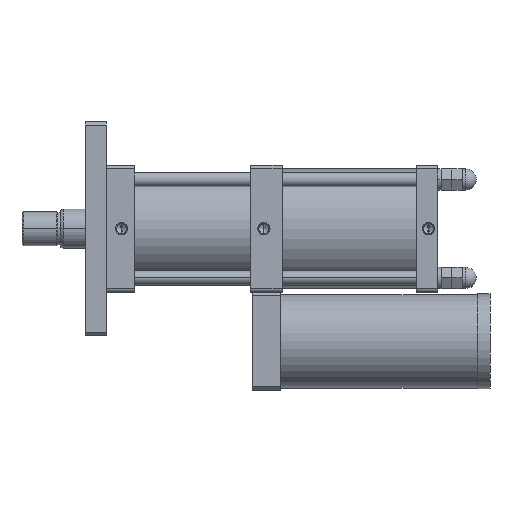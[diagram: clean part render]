
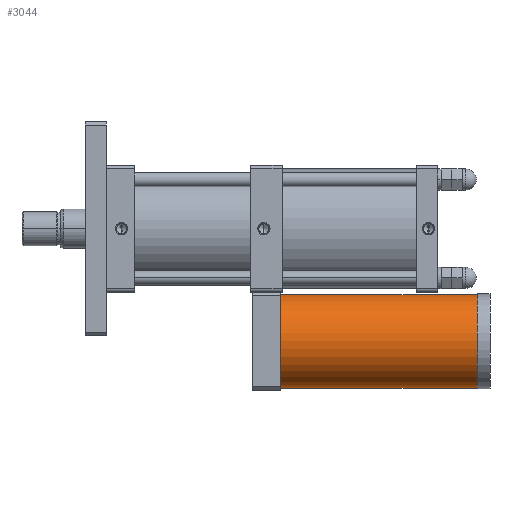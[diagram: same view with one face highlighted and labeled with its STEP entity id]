
A CAD part, front view. The second image highlights one B-rep face of the part: STEP entity #3044.
In plain terms, the highlighted cylindrical face has radius 66.5 mm (diameter 133 mm), a partial arc.
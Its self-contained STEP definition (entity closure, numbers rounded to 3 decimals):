
#88 = VECTOR ( 'NONE', #6499, 1000. ) ;
#444 = ORIENTED_EDGE ( 'NONE', *, *, #6736, .F. ) ;
#541 = ORIENTED_EDGE ( 'NONE', *, *, #2106, .T. ) ;
#577 = AXIS2_PLACEMENT_3D ( 'NONE', #4646, #8798, #7411 ) ;
#1026 = CARTESIAN_POINT ( 'NONE',  ( 647.5, 0., -160. ) ) ;
#1734 = DIRECTION ( 'NONE',  ( 0., 0., -1. ) ) ;
#1928 = LINE ( 'NONE', #3712, #88 ) ;
#2106 = EDGE_CURVE ( 'NONE', #8151, #4573, #1928, .T. ) ;
#2399 = FACE_OUTER_BOUND ( 'NONE', #6190, .T. ) ;
#2738 = VERTEX_POINT ( 'NONE', #8181 ) ;
#2906 = ORIENTED_EDGE ( 'NONE', *, *, #5036, .T. ) ;
#3044 = ADVANCED_FACE ( 'NONE', ( #2399 ), #4008, .T. ) ;
#3077 = DIRECTION ( 'NONE',  ( 1., 0., 0. ) ) ;
#3415 = CARTESIAN_POINT ( 'NONE',  ( 647.5, 0., -226.5 ) ) ;
#3712 = CARTESIAN_POINT ( 'NONE',  ( 647.5, 0., -93.5 ) ) ;
#4008 = CYLINDRICAL_SURFACE ( 'NONE', #577, 66.5 ) ;
#4573 = VERTEX_POINT ( 'NONE', #5877 ) ;
#4646 = CARTESIAN_POINT ( 'NONE',  ( 647.5, 0., -160. ) ) ;
#5036 = EDGE_CURVE ( 'NONE', #4573, #7769, #8655, .T. ) ;
#5235 = AXIS2_PLACEMENT_3D ( 'NONE', #1026, #5869, #1734 ) ;
#5507 = DIRECTION ( 'NONE',  ( -1., 0., 0. ) ) ;
#5795 = AXIS2_PLACEMENT_3D ( 'NONE', #7213, #3077, #7914 ) ;
#5869 = DIRECTION ( 'NONE',  ( 1., 0., 0. ) ) ;
#5877 = CARTESIAN_POINT ( 'NONE',  ( 367.5, 0., -93.5 ) ) ;
#5989 = ORIENTED_EDGE ( 'NONE', *, *, #7385, .F. ) ;
#6190 = EDGE_LOOP ( 'NONE', ( #444, #5989, #541, #2906 ) ) ;
#6384 = VECTOR ( 'NONE', #5507, 1000. ) ;
#6499 = DIRECTION ( 'NONE',  ( -1., 0., 0. ) ) ;
#6736 = EDGE_CURVE ( 'NONE', #2738, #7769, #8222, .T. ) ;
#7213 = CARTESIAN_POINT ( 'NONE',  ( 367.5, 0., -160. ) ) ;
#7224 = CARTESIAN_POINT ( 'NONE',  ( 647.5, 0., -93.5 ) ) ;
#7385 = EDGE_CURVE ( 'NONE', #8151, #2738, #8108, .T. ) ;
#7411 = DIRECTION ( 'NONE',  ( 0., 0., 1. ) ) ;
#7769 = VERTEX_POINT ( 'NONE', #8470 ) ;
#7914 = DIRECTION ( 'NONE',  ( 0., 0., -1. ) ) ;
#8108 = CIRCLE ( 'NONE', #5235, 66.5 ) ;
#8151 = VERTEX_POINT ( 'NONE', #7224 ) ;
#8181 = CARTESIAN_POINT ( 'NONE',  ( 647.5, 0., -226.5 ) ) ;
#8222 = LINE ( 'NONE', #3415, #6384 ) ;
#8470 = CARTESIAN_POINT ( 'NONE',  ( 367.5, 0., -226.5 ) ) ;
#8655 = CIRCLE ( 'NONE', #5795, 66.5 ) ;
#8798 = DIRECTION ( 'NONE',  ( -1., 0., 0. ) ) ;
